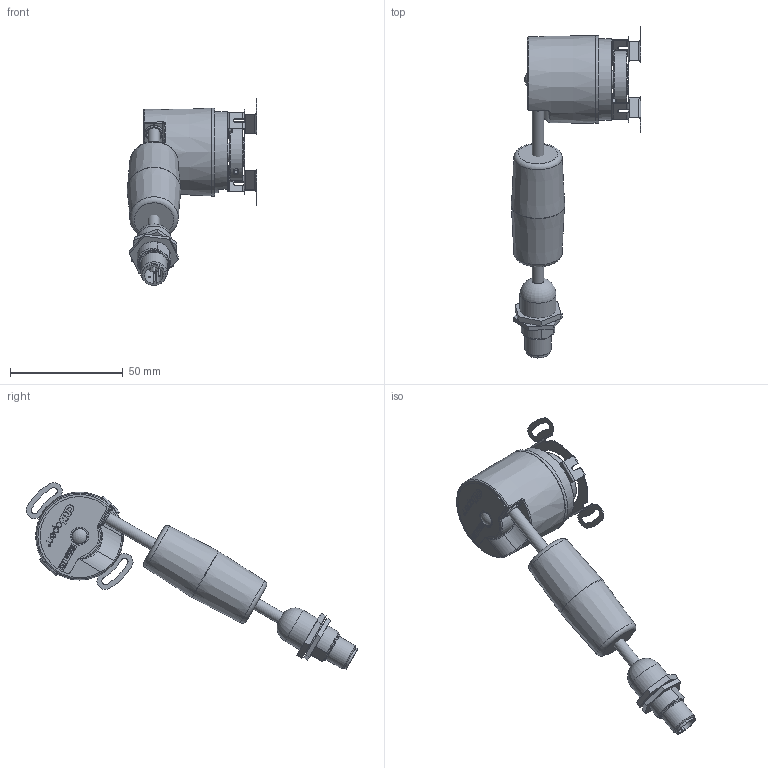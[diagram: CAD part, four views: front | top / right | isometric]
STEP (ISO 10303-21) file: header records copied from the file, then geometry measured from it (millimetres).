
FILE_DESCRIPTION (( 'STEP AP214' ), '1' );
FILE_NAME ('8.F3688.2725.2122.STEP', '2016-07-22T05:29:09', ( 'HeirlerN' ), ( 'Microsoft' ), 'SwSTEP 2.0', 'SolidWorks 2013', '' );
FILE_SCHEMA (( 'AUTOMOTIVE_DESIGN' ));
Length unit declared in the file: millimetre
Products named in the file (1): 8.F3688.2725.2122
Bounding box: 57.44 x 147.23 x 82.87 mm (x, y, z)
Surface area: 20724 mm2 (no closed solid volume)
Topology: 0 solids, 27 shells, 365 faces, 1402 edges, 1037 vertices
Faces by surface type: plane 176, cylinder 117, cone 31, bspline 17, torus 17, sphere 7
Full cylindrical faces by diameter (mm): 0.8 x4, 1.173 x1, 2.05 x3, 2.5 x1, 4.5 x1, 4.7 x1, 5.2 x1, 5.45 x1, 6.53 x1, 8 x3, 10.5 x1, 11.8 x1, 16 x1, 36 x1, 39 x1
Entity records: 20645 total; most frequent: CARTESIAN_POINT 5800, DIRECTION 2081, ORIENTED_EDGE 2000, EDGE_CURVE 1316, VERTEX_POINT 1009, LINE 707, VECTOR 707, AXIS2_PLACEMENT_3D 687
